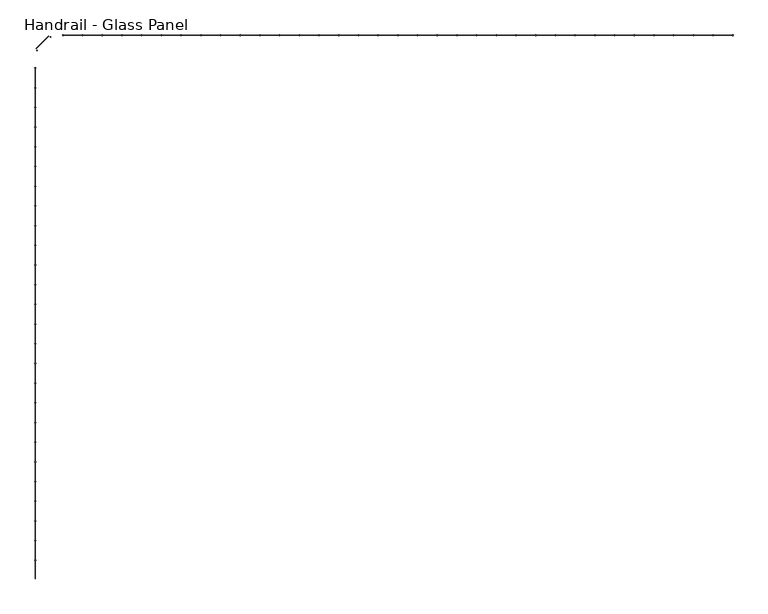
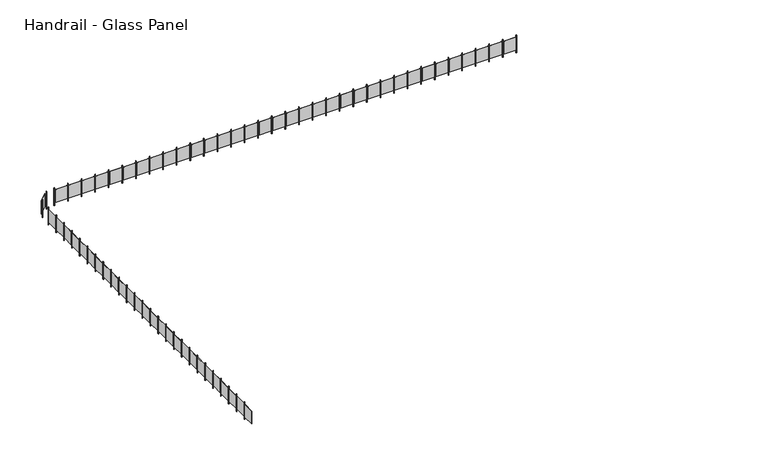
"""IFC4 building model written with IfcOpenShell, lengths in millimetres: railing geometry, Handrail - Glass Panel."""

from ifc_helpers import new_model, si_unit, frame, origin, place, context, project, spatial, polyline, outline, extrude, source, transform, mapped, element, save


def handrail_glass_panel_13f54aed(model_context):
    return source(origin(), model_context, "Body", "SweptSolid", [
        extrude(outline(polyline([(-19656.6365899, -6453.2148653), (-19656.6365899, -7012.0148653), (-19662.9865899, -7012.0148653), (-19662.9865899, -6453.2148653), (-19656.6365899, -6453.2148653)])), frame((0.0, 0.0, 8227.0), z_axis=(0.0, 0.0, 1.0), x_axis=(1.0, 0.0, 0.0)), (0.0, 0.0, 1.0), 635.0),
        extrude(outline(polyline([(-19672.5115899, -6405.5898653), (-19653.4615899, -6405.5898653), (-19653.4615899, -6424.6398653), (-19672.5115899, -6424.6398653), (-19672.5115899, -6405.5898653)])), frame((0.0, 0.0, 8100.0), z_axis=(0.0, 0.0, 1.0), x_axis=(1.0, 0.0, 0.0)), (0.0, 0.0, 1.0), 863.6),
        extrude(outline(polyline([(-19656.6365899, -5818.2148653), (-19656.6365899, -6377.0148653), (-19662.9865899, -6377.0148653), (-19662.9865899, -5818.2148653), (-19656.6365899, -5818.2148653)])), frame((0.0, 0.0, 8227.0), z_axis=(0.0, 0.0, 1.0), x_axis=(1.0, 0.0, 0.0)), (0.0, 0.0, 1.0), 635.0),
        extrude(outline(polyline([(-19672.5115899, -5770.5898653), (-19653.4615899, -5770.5898653), (-19653.4615899, -5789.6398653), (-19672.5115899, -5789.6398653), (-19672.5115899, -5770.5898653)])), frame((0.0, 0.0, 8100.0), z_axis=(0.0, 0.0, 1.0), x_axis=(1.0, 0.0, 0.0)), (0.0, 0.0, 1.0), 863.6),
        extrude(outline(polyline([(-19656.6365899, -5183.2148653), (-19656.6365899, -5742.0148653), (-19662.9865899, -5742.0148653), (-19662.9865899, -5183.2148653), (-19656.6365899, -5183.2148653)])), frame((0.0, 0.0, 8227.0), z_axis=(0.0, 0.0, 1.0), x_axis=(1.0, 0.0, 0.0)), (0.0, 0.0, 1.0), 635.0),
        extrude(outline(polyline([(-19672.5115899, -5135.5898653), (-19653.4615899, -5135.5898653), (-19653.4615899, -5154.6398653), (-19672.5115899, -5154.6398653), (-19672.5115899, -5135.5898653)])), frame((0.0, 0.0, 8100.0), z_axis=(0.0, 0.0, 1.0), x_axis=(1.0, 0.0, 0.0)), (0.0, 0.0, 1.0), 863.6),
        extrude(outline(polyline([(-19656.6365899, -4548.2148653), (-19656.6365899, -5107.0148653), (-19662.9865899, -5107.0148653), (-19662.9865899, -4548.2148653), (-19656.6365899, -4548.2148653)])), frame((0.0, 0.0, 8227.0), z_axis=(0.0, 0.0, 1.0), x_axis=(1.0, 0.0, 0.0)), (0.0, 0.0, 1.0), 635.0),
        extrude(outline(polyline([(-19672.5115899, -4500.5898653), (-19653.4615899, -4500.5898653), (-19653.4615899, -4519.6398653), (-19672.5115899, -4519.6398653), (-19672.5115899, -4500.5898653)])), frame((0.0, 0.0, 8100.0), z_axis=(0.0, 0.0, 1.0), x_axis=(1.0, 0.0, 0.0)), (0.0, 0.0, 1.0), 863.6),
        extrude(outline(polyline([(-19656.6365899, -3913.2148653), (-19656.6365899, -4472.0148653), (-19662.9865899, -4472.0148653), (-19662.9865899, -3913.2148653), (-19656.6365899, -3913.2148653)])), frame((0.0, 0.0, 8227.0), z_axis=(0.0, 0.0, 1.0), x_axis=(1.0, 0.0, 0.0)), (0.0, 0.0, 1.0), 635.0),
        extrude(outline(polyline([(-19672.5115899, -3865.5898653), (-19653.4615899, -3865.5898653), (-19653.4615899, -3884.6398653), (-19672.5115899, -3884.6398653), (-19672.5115899, -3865.5898653)])), frame((0.0, 0.0, 8100.0), z_axis=(0.0, 0.0, 1.0), x_axis=(1.0, 0.0, 0.0)), (0.0, 0.0, 1.0), 863.6),
        extrude(outline(polyline([(-19656.6365899, -3278.2148653), (-19656.6365899, -3837.0148653), (-19662.9865899, -3837.0148653), (-19662.9865899, -3278.2148653), (-19656.6365899, -3278.2148653)])), frame((0.0, 0.0, 8227.0), z_axis=(0.0, 0.0, 1.0), x_axis=(1.0, 0.0, 0.0)), (0.0, 0.0, 1.0), 635.0),
        extrude(outline(polyline([(-19672.5115899, -3230.5898653), (-19653.4615899, -3230.5898653), (-19653.4615899, -3249.6398653), (-19672.5115899, -3249.6398653), (-19672.5115899, -3230.5898653)])), frame((0.0, 0.0, 8100.0), z_axis=(0.0, 0.0, 1.0), x_axis=(1.0, 0.0, 0.0)), (0.0, 0.0, 1.0), 863.6),
        extrude(outline(polyline([(-19656.6365899, -2643.2148653), (-19656.6365899, -3202.0148653), (-19662.9865899, -3202.0148653), (-19662.9865899, -2643.2148653), (-19656.6365899, -2643.2148653)])), frame((0.0, 0.0, 8227.0), z_axis=(0.0, 0.0, 1.0), x_axis=(1.0, 0.0, 0.0)), (0.0, 0.0, 1.0), 635.0),
        extrude(outline(polyline([(-19672.5115899, -2595.5898653), (-19653.4615899, -2595.5898653), (-19653.4615899, -2614.6398653), (-19672.5115899, -2614.6398653), (-19672.5115899, -2595.5898653)])), frame((0.0, 0.0, 8100.0), z_axis=(0.0, 0.0, 1.0), x_axis=(1.0, 0.0, 0.0)), (0.0, 0.0, 1.0), 863.6),
        extrude(outline(polyline([(-19656.6365899, -2008.2148653), (-19656.6365899, -2567.0148653), (-19662.9865899, -2567.0148653), (-19662.9865899, -2008.2148653), (-19656.6365899, -2008.2148653)])), frame((0.0, 0.0, 8227.0), z_axis=(0.0, 0.0, 1.0), x_axis=(1.0, 0.0, 0.0)), (0.0, 0.0, 1.0), 635.0),
        extrude(outline(polyline([(-19672.5115899, -1960.5898653), (-19653.4615899, -1960.5898653), (-19653.4615899, -1979.6398653), (-19672.5115899, -1979.6398653), (-19672.5115899, -1960.5898653)])), frame((0.0, 0.0, 8100.0), z_axis=(0.0, 0.0, 1.0), x_axis=(1.0, 0.0, 0.0)), (0.0, 0.0, 1.0), 863.6),
        extrude(outline(polyline([(-19656.6365899, -1373.2148653), (-19656.6365899, -1932.0148653), (-19662.9865899, -1932.0148653), (-19662.9865899, -1373.2148653), (-19656.6365899, -1373.2148653)])), frame((0.0, 0.0, 8227.0), z_axis=(0.0, 0.0, 1.0), x_axis=(1.0, 0.0, 0.0)), (0.0, 0.0, 1.0), 635.0),
        extrude(outline(polyline([(-19672.5115899, -1325.5898653), (-19653.4615899, -1325.5898653), (-19653.4615899, -1344.6398653), (-19672.5115899, -1344.6398653), (-19672.5115899, -1325.5898653)])), frame((0.0, 0.0, 8100.0), z_axis=(0.0, 0.0, 1.0), x_axis=(1.0, 0.0, 0.0)), (0.0, 0.0, 1.0), 863.6),
        extrude(outline(polyline([(-19656.6365899, -738.2148653), (-19656.6365899, -1297.0148653), (-19662.9865899, -1297.0148653), (-19662.9865899, -738.2148653), (-19656.6365899, -738.2148653)])), frame((0.0, 0.0, 8227.0), z_axis=(0.0, 0.0, 1.0), x_axis=(1.0, 0.0, 0.0)), (0.0, 0.0, 1.0), 635.0),
        extrude(outline(polyline([(-19672.5115899, -690.5898653), (-19653.4615899, -690.5898653), (-19653.4615899, -709.6398653), (-19672.5115899, -709.6398653), (-19672.5115899, -690.5898653)])), frame((0.0, 0.0, 8100.0), z_axis=(0.0, 0.0, 1.0), x_axis=(1.0, 0.0, 0.0)), (0.0, 0.0, 1.0), 863.6),
        extrude(outline(polyline([(-19656.6365899, -103.2148653), (-19656.6365899, -662.0148653), (-19662.9865899, -662.0148653), (-19662.9865899, -103.2148653), (-19656.6365899, -103.2148653)])), frame((0.0, 0.0, 8227.0), z_axis=(0.0, 0.0, 1.0), x_axis=(1.0, 0.0, 0.0)), (0.0, 0.0, 1.0), 635.0),
        extrude(outline(polyline([(-19672.5115899, -55.5898653), (-19653.4615899, -55.5898653), (-19653.4615899, -74.6398653), (-19672.5115899, -74.6398653), (-19672.5115899, -55.5898653)])), frame((0.0, 0.0, 8100.0), z_axis=(0.0, 0.0, 1.0), x_axis=(1.0, 0.0, 0.0)), (0.0, 0.0, 1.0), 863.6),
        extrude(outline(polyline([(-19656.6365899, 531.7851347), (-19656.6365899, -27.0148653), (-19662.9865899, -27.0148653), (-19662.9865899, 531.7851347), (-19656.6365899, 531.7851347)])), frame((0.0, 0.0, 8227.0), z_axis=(0.0, 0.0, 1.0), x_axis=(1.0, 0.0, 0.0)), (0.0, 0.0, 1.0), 635.0),
        extrude(outline(polyline([(-19672.5115899, 579.4101347), (-19653.4615899, 579.4101347), (-19653.4615899, 560.3601347), (-19672.5115899, 560.3601347), (-19672.5115899, 579.4101347)])), frame((0.0, 0.0, 8100.0), z_axis=(0.0, 0.0, 1.0), x_axis=(1.0, 0.0, 0.0)), (0.0, 0.0, 1.0), 863.6),
        extrude(outline(polyline([(-19656.6365899, 1166.7851347), (-19656.6365899, 607.9851347), (-19662.9865899, 607.9851347), (-19662.9865899, 1166.7851347), (-19656.6365899, 1166.7851347)])), frame((0.0, 0.0, 8227.0), z_axis=(0.0, 0.0, 1.0), x_axis=(1.0, 0.0, 0.0)), (0.0, 0.0, 1.0), 635.0),
        extrude(outline(polyline([(-19672.5115899, 1214.4101347), (-19653.4615899, 1214.4101347), (-19653.4615899, 1195.3601347), (-19672.5115899, 1195.3601347), (-19672.5115899, 1214.4101347)])), frame((0.0, 0.0, 8100.0), z_axis=(0.0, 0.0, 1.0), x_axis=(1.0, 0.0, 0.0)), (0.0, 0.0, 1.0), 863.6),
        extrude(outline(polyline([(-19656.6365899, 1801.7851347), (-19656.6365899, 1242.9851347), (-19662.9865899, 1242.9851347), (-19662.9865899, 1801.7851347), (-19656.6365899, 1801.7851347)])), frame((0.0, 0.0, 8227.0), z_axis=(0.0, 0.0, 1.0), x_axis=(1.0, 0.0, 0.0)), (0.0, 0.0, 1.0), 635.0),
        extrude(outline(polyline([(-19672.5115899, 1849.4101347), (-19653.4615899, 1849.4101347), (-19653.4615899, 1830.3601347), (-19672.5115899, 1830.3601347), (-19672.5115899, 1849.4101347)])), frame((0.0, 0.0, 8100.0), z_axis=(0.0, 0.0, 1.0), x_axis=(1.0, 0.0, 0.0)), (0.0, 0.0, 1.0), 863.6),
        extrude(outline(polyline([(-19656.6365899, 2436.7851347), (-19656.6365899, 1877.9851347), (-19662.9865899, 1877.9851347), (-19662.9865899, 2436.7851347), (-19656.6365899, 2436.7851347)])), frame((0.0, 0.0, 8227.0), z_axis=(0.0, 0.0, 1.0), x_axis=(1.0, 0.0, 0.0)), (0.0, 0.0, 1.0), 635.0),
        extrude(outline(polyline([(-19672.5115899, 2484.4101347), (-19653.4615899, 2484.4101347), (-19653.4615899, 2465.3601347), (-19672.5115899, 2465.3601347), (-19672.5115899, 2484.4101347)])), frame((0.0, 0.0, 8100.0), z_axis=(0.0, 0.0, 1.0), x_axis=(1.0, 0.0, 0.0)), (0.0, 0.0, 1.0), 863.6),
        extrude(outline(polyline([(-19656.6365899, 3071.7851347), (-19656.6365899, 2512.9851347), (-19662.9865899, 2512.9851347), (-19662.9865899, 3071.7851347), (-19656.6365899, 3071.7851347)])), frame((0.0, 0.0, 8227.0), z_axis=(0.0, 0.0, 1.0), x_axis=(1.0, 0.0, 0.0)), (0.0, 0.0, 1.0), 635.0),
        extrude(outline(polyline([(-19672.5115899, 3119.4101347), (-19653.4615899, 3119.4101347), (-19653.4615899, 3100.3601347), (-19672.5115899, 3100.3601347), (-19672.5115899, 3119.4101347)])), frame((0.0, 0.0, 8100.0), z_axis=(0.0, 0.0, 1.0), x_axis=(1.0, 0.0, 0.0)), (0.0, 0.0, 1.0), 863.6),
        extrude(outline(polyline([(-19656.6365899, 3706.7851347), (-19656.6365899, 3147.9851347), (-19662.9865899, 3147.9851347), (-19662.9865899, 3706.7851347), (-19656.6365899, 3706.7851347)])), frame((0.0, 0.0, 8227.0), z_axis=(0.0, 0.0, 1.0), x_axis=(1.0, 0.0, 0.0)), (0.0, 0.0, 1.0), 635.0),
        extrude(outline(polyline([(-19672.5115899, 3754.4101347), (-19653.4615899, 3754.4101347), (-19653.4615899, 3735.3601347), (-19672.5115899, 3735.3601347), (-19672.5115899, 3754.4101347)])), frame((0.0, 0.0, 8100.0), z_axis=(0.0, 0.0, 1.0), x_axis=(1.0, 0.0, 0.0)), (0.0, 0.0, 1.0), 863.6),
        extrude(outline(polyline([(-19656.6365899, 4341.7851347), (-19656.6365899, 3782.9851347), (-19662.9865899, 3782.9851347), (-19662.9865899, 4341.7851347), (-19656.6365899, 4341.7851347)])), frame((0.0, 0.0, 8227.0), z_axis=(0.0, 0.0, 1.0), x_axis=(1.0, 0.0, 0.0)), (0.0, 0.0, 1.0), 635.0),
        extrude(outline(polyline([(-19672.5115899, 4389.4101347), (-19653.4615899, 4389.4101347), (-19653.4615899, 4370.3601347), (-19672.5115899, 4370.3601347), (-19672.5115899, 4389.4101347)])), frame((0.0, 0.0, 8100.0), z_axis=(0.0, 0.0, 1.0), x_axis=(1.0, 0.0, 0.0)), (0.0, 0.0, 1.0), 863.6),
        extrude(outline(polyline([(-19656.6365899, 4976.7851347), (-19656.6365899, 4417.9851347), (-19662.9865899, 4417.9851347), (-19662.9865899, 4976.7851347), (-19656.6365899, 4976.7851347)])), frame((0.0, 0.0, 8227.0), z_axis=(0.0, 0.0, 1.0), x_axis=(1.0, 0.0, 0.0)), (0.0, 0.0, 1.0), 635.0),
        extrude(outline(polyline([(-19672.5115899, 5024.4101347), (-19653.4615899, 5024.4101347), (-19653.4615899, 5005.3601347), (-19672.5115899, 5005.3601347), (-19672.5115899, 5024.4101347)])), frame((0.0, 0.0, 8100.0), z_axis=(0.0, 0.0, 1.0), x_axis=(1.0, 0.0, 0.0)), (0.0, 0.0, 1.0), 863.6),
        extrude(outline(polyline([(-19656.6365899, 5611.7851347), (-19656.6365899, 5052.9851347), (-19662.9865899, 5052.9851347), (-19662.9865899, 5611.7851347), (-19656.6365899, 5611.7851347)])), frame((0.0, 0.0, 8227.0), z_axis=(0.0, 0.0, 1.0), x_axis=(1.0, 0.0, 0.0)), (0.0, 0.0, 1.0), 635.0),
        extrude(outline(polyline([(-19672.5115899, 5659.4101347), (-19653.4615899, 5659.4101347), (-19653.4615899, 5640.3601347), (-19672.5115899, 5640.3601347), (-19672.5115899, 5659.4101347)])), frame((0.0, 0.0, 8100.0), z_axis=(0.0, 0.0, 1.0), x_axis=(1.0, 0.0, 0.0)), (0.0, 0.0, 1.0), 863.6),
        extrude(outline(polyline([(-19656.6365899, 6246.7851347), (-19656.6365899, 5687.9851347), (-19662.9865899, 5687.9851347), (-19662.9865899, 6246.7851347), (-19656.6365899, 6246.7851347)])), frame((0.0, 0.0, 8227.0), z_axis=(0.0, 0.0, 1.0), x_axis=(1.0, 0.0, 0.0)), (0.0, 0.0, 1.0), 635.0),
        extrude(outline(polyline([(-19672.5115899, 6294.4101347), (-19653.4615899, 6294.4101347), (-19653.4615899, 6275.3601347), (-19672.5115899, 6275.3601347), (-19672.5115899, 6294.4101347)])), frame((0.0, 0.0, 8100.0), z_axis=(0.0, 0.0, 1.0), x_axis=(1.0, 0.0, 0.0)), (0.0, 0.0, 1.0), 863.6),
        extrude(outline(polyline([(-19656.6365899, 6881.7851347), (-19656.6365899, 6322.9851347), (-19662.9865899, 6322.9851347), (-19662.9865899, 6881.7851347), (-19656.6365899, 6881.7851347)])), frame((0.0, 0.0, 8227.0), z_axis=(0.0, 0.0, 1.0), x_axis=(1.0, 0.0, 0.0)), (0.0, 0.0, 1.0), 635.0),
        extrude(outline(polyline([(-19672.5115899, 6929.4101347), (-19653.4615899, 6929.4101347), (-19653.4615899, 6910.3601347), (-19672.5115899, 6910.3601347), (-19672.5115899, 6929.4101347)])), frame((0.0, 0.0, 8100.0), z_axis=(0.0, 0.0, 1.0), x_axis=(1.0, 0.0, 0.0)), (0.0, 0.0, 1.0), 863.6),
        extrude(outline(polyline([(-19656.6365899, 7516.7851347), (-19656.6365899, 6957.9851347), (-19662.9865899, 6957.9851347), (-19662.9865899, 7516.7851347), (-19656.6365899, 7516.7851347)])), frame((0.0, 0.0, 8227.0), z_axis=(0.0, 0.0, 1.0), x_axis=(1.0, 0.0, 0.0)), (0.0, 0.0, 1.0), 635.0),
        extrude(outline(polyline([(-19672.5115899, 7564.4101347), (-19653.4615899, 7564.4101347), (-19653.4615899, 7545.3601347), (-19672.5115899, 7545.3601347), (-19672.5115899, 7564.4101347)])), frame((0.0, 0.0, 8100.0), z_axis=(0.0, 0.0, 1.0), x_axis=(1.0, 0.0, 0.0)), (0.0, 0.0, 1.0), 863.6),
        extrude(outline(polyline([(-19656.6365899, 8151.7851347), (-19656.6365899, 7592.9851347), (-19662.9865899, 7592.9851347), (-19662.9865899, 8151.7851347), (-19656.6365899, 8151.7851347)])), frame((0.0, 0.0, 8227.0), z_axis=(0.0, 0.0, 1.0), x_axis=(1.0, 0.0, 0.0)), (0.0, 0.0, 1.0), 635.0),
        extrude(outline(polyline([(-19672.5115899, 8199.4101347), (-19653.4615899, 8199.4101347), (-19653.4615899, 8180.3601347), (-19672.5115899, 8180.3601347), (-19672.5115899, 8199.4101347)])), frame((0.0, 0.0, 8100.0), z_axis=(0.0, 0.0, 1.0), x_axis=(1.0, 0.0, 0.0)), (0.0, 0.0, 1.0), 863.6),
        extrude(outline(polyline([(-19656.6365899, 8786.7851347), (-19656.6365899, 8227.9851347), (-19662.9865899, 8227.9851347), (-19662.9865899, 8786.7851347), (-19656.6365899, 8786.7851347)])), frame((0.0, 0.0, 8227.0), z_axis=(0.0, 0.0, 1.0), x_axis=(1.0, 0.0, 0.0)), (0.0, 0.0, 1.0), 635.0),
        extrude(outline(polyline([(-19672.5115899, 8834.4101347), (-19653.4615899, 8834.4101347), (-19653.4615899, 8815.3601347), (-19672.5115899, 8815.3601347), (-19672.5115899, 8834.4101347)])), frame((0.0, 0.0, 8100.0), z_axis=(0.0, 0.0, 1.0), x_axis=(1.0, 0.0, 0.0)), (0.0, 0.0, 1.0), 863.6),
        extrude(outline(polyline([(-19656.6365899, 9421.7851347), (-19656.6365899, 8862.9851347), (-19662.9865899, 8862.9851347), (-19662.9865899, 9421.7851347), (-19656.6365899, 9421.7851347)])), frame((0.0, 0.0, 8227.0), z_axis=(0.0, 0.0, 1.0), x_axis=(1.0, 0.0, 0.0)), (0.0, 0.0, 1.0), 635.0),
        extrude(outline(polyline([(-19672.5115899, 9469.4101347), (-19653.4615899, 9469.4101347), (-19653.4615899, 9450.3601347), (-19672.5115899, 9450.3601347), (-19672.5115899, 9469.4101347)])), frame((0.0, 0.0, 8100.0), z_axis=(0.0, 0.0, 1.0), x_axis=(1.0, 0.0, 0.0)), (0.0, 0.0, 1.0), 863.6),
        extrude(outline(polyline([(-19614.1999922, 10044.4220765), (-19596.4803333, 10037.4280656), (-19603.4743442, 10019.7084067), (-19621.1940031, 10026.7024176), (-19614.1999922, 10044.4220765)])), frame((0.0, 0.0, 8100.0), z_axis=(0.0, 0.0, 1.0), x_axis=(1.0, 0.0, 0.0)), (0.0, 0.0, 1.0), 863.6),
        extrude(outline(polyline([(-19233.8214253, 10488.7512395), (-19628.9526946, 10093.6199701), (-19633.4428227, 10098.1100982), (-19238.3115534, 10493.2413675), (-19233.8214253, 10488.7512395)])), frame((0.0, 0.0, 8227.0), z_axis=(0.0, 0.0, 1.0), x_axis=(1.0, 0.0, 0.0)), (0.0, 0.0, 1.0), 635.0),
        extrude(outline(polyline([(-19166.9038727, 10480.992548), (-19159.9098618, 10463.2728891), (-19177.6295208, 10456.2788782), (-19184.6235316, 10473.9985371), (-19166.9038727, 10480.992548)])), frame((0.0, 0.0, 8100.0), z_axis=(0.0, 0.0, 1.0), x_axis=(1.0, 0.0, 0.0)), (0.0, 0.0, 1.0), 863.6),
        extrude(outline(polyline([(-18761.4469999, 10532.3101347), (-18761.4469999, 10513.2601347), (-18780.4969999, 10513.2601347), (-18780.4969999, 10532.3101347), (-18761.4469999, 10532.3101347)])), frame((0.0, 0.0, 8100.0), z_axis=(0.0, 0.0, 1.0), x_axis=(1.0, 0.0, 0.0)), (0.0, 0.0, 1.0), 863.6),
        extrude(outline(polyline([(-18174.0719999, 10516.4351347), (-18732.8719999, 10516.4351347), (-18732.8719999, 10522.7851347), (-18174.0719999, 10522.7851347), (-18174.0719999, 10516.4351347)])), frame((0.0, 0.0, 8227.0), z_axis=(0.0, 0.0, 1.0), x_axis=(1.0, 0.0, 0.0)), (0.0, 0.0, 1.0), 635.0),
        extrude(outline(polyline([(-18126.4469999, 10532.3101347), (-18126.4469999, 10513.2601347), (-18145.4969999, 10513.2601347), (-18145.4969999, 10532.3101347), (-18126.4469999, 10532.3101347)])), frame((0.0, 0.0, 8100.0), z_axis=(0.0, 0.0, 1.0), x_axis=(1.0, 0.0, 0.0)), (0.0, 0.0, 1.0), 863.6),
        extrude(outline(polyline([(-17539.0719999, 10516.4351347), (-18097.8719999, 10516.4351347), (-18097.8719999, 10522.7851347), (-17539.0719999, 10522.7851347), (-17539.0719999, 10516.4351347)])), frame((0.0, 0.0, 8227.0), z_axis=(0.0, 0.0, 1.0), x_axis=(1.0, 0.0, 0.0)), (0.0, 0.0, 1.0), 635.0),
        extrude(outline(polyline([(-17491.4469999, 10532.3101347), (-17491.4469999, 10513.2601347), (-17510.4969999, 10513.2601347), (-17510.4969999, 10532.3101347), (-17491.4469999, 10532.3101347)])), frame((0.0, 0.0, 8100.0), z_axis=(0.0, 0.0, 1.0), x_axis=(1.0, 0.0, 0.0)), (0.0, 0.0, 1.0), 863.6),
        extrude(outline(polyline([(-16904.0719999, 10516.4351347), (-17462.8719999, 10516.4351347), (-17462.8719999, 10522.7851347), (-16904.0719999, 10522.7851347), (-16904.0719999, 10516.4351347)])), frame((0.0, 0.0, 8227.0), z_axis=(0.0, 0.0, 1.0), x_axis=(1.0, 0.0, 0.0)), (0.0, 0.0, 1.0), 635.0),
        extrude(outline(polyline([(-16856.4469999, 10532.3101347), (-16856.4469999, 10513.2601347), (-16875.4969999, 10513.2601347), (-16875.4969999, 10532.3101347), (-16856.4469999, 10532.3101347)])), frame((0.0, 0.0, 8100.0), z_axis=(0.0, 0.0, 1.0), x_axis=(1.0, 0.0, 0.0)), (0.0, 0.0, 1.0), 863.6),
        extrude(outline(polyline([(-16269.0719999, 10516.4351347), (-16827.8719999, 10516.4351347), (-16827.8719999, 10522.7851347), (-16269.0719999, 10522.7851347), (-16269.0719999, 10516.4351347)])), frame((0.0, 0.0, 8227.0), z_axis=(0.0, 0.0, 1.0), x_axis=(1.0, 0.0, 0.0)), (0.0, 0.0, 1.0), 635.0),
        extrude(outline(polyline([(-16221.4469999, 10532.3101347), (-16221.4469999, 10513.2601347), (-16240.4969999, 10513.2601347), (-16240.4969999, 10532.3101347), (-16221.4469999, 10532.3101347)])), frame((0.0, 0.0, 8100.0), z_axis=(0.0, 0.0, 1.0), x_axis=(1.0, 0.0, 0.0)), (0.0, 0.0, 1.0), 863.6),
        extrude(outline(polyline([(-15634.0719999, 10516.4351347), (-16192.8719999, 10516.4351347), (-16192.8719999, 10522.7851347), (-15634.0719999, 10522.7851347), (-15634.0719999, 10516.4351347)])), frame((0.0, 0.0, 8227.0), z_axis=(0.0, 0.0, 1.0), x_axis=(1.0, 0.0, 0.0)), (0.0, 0.0, 1.0), 635.0),
        extrude(outline(polyline([(-15586.4469999, 10532.3101347), (-15586.4469999, 10513.2601347), (-15605.4969999, 10513.2601347), (-15605.4969999, 10532.3101347), (-15586.4469999, 10532.3101347)])), frame((0.0, 0.0, 8100.0), z_axis=(0.0, 0.0, 1.0), x_axis=(1.0, 0.0, 0.0)), (0.0, 0.0, 1.0), 863.6),
        extrude(outline(polyline([(-14999.0719999, 10516.4351347), (-15557.8719999, 10516.4351347), (-15557.8719999, 10522.7851347), (-14999.0719999, 10522.7851347), (-14999.0719999, 10516.4351347)])), frame((0.0, 0.0, 8227.0), z_axis=(0.0, 0.0, 1.0), x_axis=(1.0, 0.0, 0.0)), (0.0, 0.0, 1.0), 635.0),
        extrude(outline(polyline([(-14951.4469999, 10532.3101347), (-14951.4469999, 10513.2601347), (-14970.4969999, 10513.2601347), (-14970.4969999, 10532.3101347), (-14951.4469999, 10532.3101347)])), frame((0.0, 0.0, 8100.0), z_axis=(0.0, 0.0, 1.0), x_axis=(1.0, 0.0, 0.0)), (0.0, 0.0, 1.0), 863.6),
        extrude(outline(polyline([(-14364.0719999, 10516.4351347), (-14922.8719999, 10516.4351347), (-14922.8719999, 10522.7851347), (-14364.0719999, 10522.7851347), (-14364.0719999, 10516.4351347)])), frame((0.0, 0.0, 8227.0), z_axis=(0.0, 0.0, 1.0), x_axis=(1.0, 0.0, 0.0)), (0.0, 0.0, 1.0), 635.0),
        extrude(outline(polyline([(-14316.4469999, 10532.3101347), (-14316.4469999, 10513.2601347), (-14335.4969999, 10513.2601347), (-14335.4969999, 10532.3101347), (-14316.4469999, 10532.3101347)])), frame((0.0, 0.0, 8100.0), z_axis=(0.0, 0.0, 1.0), x_axis=(1.0, 0.0, 0.0)), (0.0, 0.0, 1.0), 863.6),
        extrude(outline(polyline([(-13729.0719999, 10516.4351347), (-14287.8719999, 10516.4351347), (-14287.8719999, 10522.7851347), (-13729.0719999, 10522.7851347), (-13729.0719999, 10516.4351347)])), frame((0.0, 0.0, 8227.0), z_axis=(0.0, 0.0, 1.0), x_axis=(1.0, 0.0, 0.0)), (0.0, 0.0, 1.0), 635.0),
        extrude(outline(polyline([(-13681.4469999, 10532.3101347), (-13681.4469999, 10513.2601347), (-13700.4969999, 10513.2601347), (-13700.4969999, 10532.3101347), (-13681.4469999, 10532.3101347)])), frame((0.0, 0.0, 8100.0), z_axis=(0.0, 0.0, 1.0), x_axis=(1.0, 0.0, 0.0)), (0.0, 0.0, 1.0), 863.6),
        extrude(outline(polyline([(-13094.0719999, 10516.4351347), (-13652.8719999, 10516.4351347), (-13652.8719999, 10522.7851347), (-13094.0719999, 10522.7851347), (-13094.0719999, 10516.4351347)])), frame((0.0, 0.0, 8227.0), z_axis=(0.0, 0.0, 1.0), x_axis=(1.0, 0.0, 0.0)), (0.0, 0.0, 1.0), 635.0),
        extrude(outline(polyline([(-13046.4469999, 10532.3101347), (-13046.4469999, 10513.2601347), (-13065.4969999, 10513.2601347), (-13065.4969999, 10532.3101347), (-13046.4469999, 10532.3101347)])), frame((0.0, 0.0, 8100.0), z_axis=(0.0, 0.0, 1.0), x_axis=(1.0, 0.0, 0.0)), (0.0, 0.0, 1.0), 863.6),
        extrude(outline(polyline([(-12459.0719999, 10516.4351347), (-13017.8719999, 10516.4351347), (-13017.8719999, 10522.7851347), (-12459.0719999, 10522.7851347), (-12459.0719999, 10516.4351347)])), frame((0.0, 0.0, 8227.0), z_axis=(0.0, 0.0, 1.0), x_axis=(1.0, 0.0, 0.0)), (0.0, 0.0, 1.0), 635.0),
        extrude(outline(polyline([(-12411.4469999, 10532.3101347), (-12411.4469999, 10513.2601347), (-12430.4969999, 10513.2601347), (-12430.4969999, 10532.3101347), (-12411.4469999, 10532.3101347)])), frame((0.0, 0.0, 8100.0), z_axis=(0.0, 0.0, 1.0), x_axis=(1.0, 0.0, 0.0)), (0.0, 0.0, 1.0), 863.6),
        extrude(outline(polyline([(-11824.0719999, 10516.4351347), (-12382.8719999, 10516.4351347), (-12382.8719999, 10522.7851347), (-11824.0719999, 10522.7851347), (-11824.0719999, 10516.4351347)])), frame((0.0, 0.0, 8227.0), z_axis=(0.0, 0.0, 1.0), x_axis=(1.0, 0.0, 0.0)), (0.0, 0.0, 1.0), 635.0),
        extrude(outline(polyline([(-11776.4469999, 10532.3101347), (-11776.4469999, 10513.2601347), (-11795.4969999, 10513.2601347), (-11795.4969999, 10532.3101347), (-11776.4469999, 10532.3101347)])), frame((0.0, 0.0, 8100.0), z_axis=(0.0, 0.0, 1.0), x_axis=(1.0, 0.0, 0.0)), (0.0, 0.0, 1.0), 863.6),
        extrude(outline(polyline([(-11189.0719999, 10516.4351347), (-11747.8719999, 10516.4351347), (-11747.8719999, 10522.7851347), (-11189.0719999, 10522.7851347), (-11189.0719999, 10516.4351347)])), frame((0.0, 0.0, 8227.0), z_axis=(0.0, 0.0, 1.0), x_axis=(1.0, 0.0, 0.0)), (0.0, 0.0, 1.0), 635.0),
        extrude(outline(polyline([(-11141.4469999, 10532.3101347), (-11141.4469999, 10513.2601347), (-11160.4969999, 10513.2601347), (-11160.4969999, 10532.3101347), (-11141.4469999, 10532.3101347)])), frame((0.0, 0.0, 8100.0), z_axis=(0.0, 0.0, 1.0), x_axis=(1.0, 0.0, 0.0)), (0.0, 0.0, 1.0), 863.6),
        extrude(outline(polyline([(-10554.0719999, 10516.4351347), (-11112.8719999, 10516.4351347), (-11112.8719999, 10522.7851347), (-10554.0719999, 10522.7851347), (-10554.0719999, 10516.4351347)])), frame((0.0, 0.0, 8227.0), z_axis=(0.0, 0.0, 1.0), x_axis=(1.0, 0.0, 0.0)), (0.0, 0.0, 1.0), 635.0),
        extrude(outline(polyline([(-10506.4469999, 10532.3101347), (-10506.4469999, 10513.2601347), (-10525.4969999, 10513.2601347), (-10525.4969999, 10532.3101347), (-10506.4469999, 10532.3101347)])), frame((0.0, 0.0, 8100.0), z_axis=(0.0, 0.0, 1.0), x_axis=(1.0, 0.0, 0.0)), (0.0, 0.0, 1.0), 863.6),
        extrude(outline(polyline([(-9919.0719999, 10516.4351347), (-10477.8719999, 10516.4351347), (-10477.8719999, 10522.7851347), (-9919.0719999, 10522.7851347), (-9919.0719999, 10516.4351347)])), frame((0.0, 0.0, 8227.0), z_axis=(0.0, 0.0, 1.0), x_axis=(1.0, 0.0, 0.0)), (0.0, 0.0, 1.0), 635.0),
        extrude(outline(polyline([(-9871.4469999, 10532.3101347), (-9871.4469999, 10513.2601347), (-9890.4969999, 10513.2601347), (-9890.4969999, 10532.3101347), (-9871.4469999, 10532.3101347)])), frame((0.0, 0.0, 8100.0), z_axis=(0.0, 0.0, 1.0), x_axis=(1.0, 0.0, 0.0)), (0.0, 0.0, 1.0), 863.6),
        extrude(outline(polyline([(-9284.0719999, 10516.4351347), (-9842.8719999, 10516.4351347), (-9842.8719999, 10522.7851347), (-9284.0719999, 10522.7851347), (-9284.0719999, 10516.4351347)])), frame((0.0, 0.0, 8227.0), z_axis=(0.0, 0.0, 1.0), x_axis=(1.0, 0.0, 0.0)), (0.0, 0.0, 1.0), 635.0),
        extrude(outline(polyline([(-9236.4469999, 10532.3101347), (-9236.4469999, 10513.2601347), (-9255.4969999, 10513.2601347), (-9255.4969999, 10532.3101347), (-9236.4469999, 10532.3101347)])), frame((0.0, 0.0, 8100.0), z_axis=(0.0, 0.0, 1.0), x_axis=(1.0, 0.0, 0.0)), (0.0, 0.0, 1.0), 863.6),
        extrude(outline(polyline([(-8649.0719999, 10516.4351347), (-9207.8719999, 10516.4351347), (-9207.8719999, 10522.7851347), (-8649.0719999, 10522.7851347), (-8649.0719999, 10516.4351347)])), frame((0.0, 0.0, 8227.0), z_axis=(0.0, 0.0, 1.0), x_axis=(1.0, 0.0, 0.0)), (0.0, 0.0, 1.0), 635.0),
        extrude(outline(polyline([(-8601.4469999, 10532.3101347), (-8601.4469999, 10513.2601347), (-8620.4969999, 10513.2601347), (-8620.4969999, 10532.3101347), (-8601.4469999, 10532.3101347)])), frame((0.0, 0.0, 8100.0), z_axis=(0.0, 0.0, 1.0), x_axis=(1.0, 0.0, 0.0)), (0.0, 0.0, 1.0), 863.6),
        extrude(outline(polyline([(-8014.0719999, 10516.4351347), (-8572.8719999, 10516.4351347), (-8572.8719999, 10522.7851347), (-8014.0719999, 10522.7851347), (-8014.0719999, 10516.4351347)])), frame((0.0, 0.0, 8227.0), z_axis=(0.0, 0.0, 1.0), x_axis=(1.0, 0.0, 0.0)), (0.0, 0.0, 1.0), 635.0),
        extrude(outline(polyline([(-7966.4469999, 10532.3101347), (-7966.4469999, 10513.2601347), (-7985.4969999, 10513.2601347), (-7985.4969999, 10532.3101347), (-7966.4469999, 10532.3101347)])), frame((0.0, 0.0, 8100.0), z_axis=(0.0, 0.0, 1.0), x_axis=(1.0, 0.0, 0.0)), (0.0, 0.0, 1.0), 863.6),
        extrude(outline(polyline([(-7379.0719999, 10516.4351347), (-7937.8719999, 10516.4351347), (-7937.8719999, 10522.7851347), (-7379.0719999, 10522.7851347), (-7379.0719999, 10516.4351347)])), frame((0.0, 0.0, 8227.0), z_axis=(0.0, 0.0, 1.0), x_axis=(1.0, 0.0, 0.0)), (0.0, 0.0, 1.0), 635.0),
        extrude(outline(polyline([(-7331.4469999, 10532.3101347), (-7331.4469999, 10513.2601347), (-7350.4969999, 10513.2601347), (-7350.4969999, 10532.3101347), (-7331.4469999, 10532.3101347)])), frame((0.0, 0.0, 8100.0), z_axis=(0.0, 0.0, 1.0), x_axis=(1.0, 0.0, 0.0)), (0.0, 0.0, 1.0), 863.6),
        extrude(outline(polyline([(-6744.0719999, 10516.4351347), (-7302.8719999, 10516.4351347), (-7302.8719999, 10522.7851347), (-6744.0719999, 10522.7851347), (-6744.0719999, 10516.4351347)])), frame((0.0, 0.0, 8227.0), z_axis=(0.0, 0.0, 1.0), x_axis=(1.0, 0.0, 0.0)), (0.0, 0.0, 1.0), 635.0),
        extrude(outline(polyline([(-6696.4469999, 10532.3101347), (-6696.4469999, 10513.2601347), (-6715.4969999, 10513.2601347), (-6715.4969999, 10532.3101347), (-6696.4469999, 10532.3101347)])), frame((0.0, 0.0, 8100.0), z_axis=(0.0, 0.0, 1.0), x_axis=(1.0, 0.0, 0.0)), (0.0, 0.0, 1.0), 863.6),
        extrude(outline(polyline([(-6109.0719999, 10516.4351347), (-6667.8719999, 10516.4351347), (-6667.8719999, 10522.7851347), (-6109.0719999, 10522.7851347), (-6109.0719999, 10516.4351347)])), frame((0.0, 0.0, 8227.0), z_axis=(0.0, 0.0, 1.0), x_axis=(1.0, 0.0, 0.0)), (0.0, 0.0, 1.0), 635.0),
        extrude(outline(polyline([(-6061.4469999, 10532.3101347), (-6061.4469999, 10513.2601347), (-6080.4969999, 10513.2601347), (-6080.4969999, 10532.3101347), (-6061.4469999, 10532.3101347)])), frame((0.0, 0.0, 8100.0), z_axis=(0.0, 0.0, 1.0), x_axis=(1.0, 0.0, 0.0)), (0.0, 0.0, 1.0), 863.6),
        extrude(outline(polyline([(-5474.0719999, 10516.4351347), (-6032.8719999, 10516.4351347), (-6032.8719999, 10522.7851347), (-5474.0719999, 10522.7851347), (-5474.0719999, 10516.4351347)])), frame((0.0, 0.0, 8227.0), z_axis=(0.0, 0.0, 1.0), x_axis=(1.0, 0.0, 0.0)), (0.0, 0.0, 1.0), 635.0),
        extrude(outline(polyline([(-5426.4469999, 10532.3101347), (-5426.4469999, 10513.2601347), (-5445.4969999, 10513.2601347), (-5445.4969999, 10532.3101347), (-5426.4469999, 10532.3101347)])), frame((0.0, 0.0, 8100.0), z_axis=(0.0, 0.0, 1.0), x_axis=(1.0, 0.0, 0.0)), (0.0, 0.0, 1.0), 863.6),
        extrude(outline(polyline([(-4839.0719999, 10516.4351347), (-5397.8719999, 10516.4351347), (-5397.8719999, 10522.7851347), (-4839.0719999, 10522.7851347), (-4839.0719999, 10516.4351347)])), frame((0.0, 0.0, 8227.0), z_axis=(0.0, 0.0, 1.0), x_axis=(1.0, 0.0, 0.0)), (0.0, 0.0, 1.0), 635.0),
        extrude(outline(polyline([(-4791.4469999, 10532.3101347), (-4791.4469999, 10513.2601347), (-4810.4969999, 10513.2601347), (-4810.4969999, 10532.3101347), (-4791.4469999, 10532.3101347)])), frame((0.0, 0.0, 8100.0), z_axis=(0.0, 0.0, 1.0), x_axis=(1.0, 0.0, 0.0)), (0.0, 0.0, 1.0), 863.6),
        extrude(outline(polyline([(-4204.0719999, 10516.4351347), (-4762.8719999, 10516.4351347), (-4762.8719999, 10522.7851347), (-4204.0719999, 10522.7851347), (-4204.0719999, 10516.4351347)])), frame((0.0, 0.0, 8227.0), z_axis=(0.0, 0.0, 1.0), x_axis=(1.0, 0.0, 0.0)), (0.0, 0.0, 1.0), 635.0),
        extrude(outline(polyline([(-4156.4469999, 10532.3101347), (-4156.4469999, 10513.2601347), (-4175.4969999, 10513.2601347), (-4175.4969999, 10532.3101347), (-4156.4469999, 10532.3101347)])), frame((0.0, 0.0, 8100.0), z_axis=(0.0, 0.0, 1.0), x_axis=(1.0, 0.0, 0.0)), (0.0, 0.0, 1.0), 863.6),
        extrude(outline(polyline([(-3569.0719999, 10516.4351347), (-4127.8719999, 10516.4351347), (-4127.8719999, 10522.7851347), (-3569.0719999, 10522.7851347), (-3569.0719999, 10516.4351347)])), frame((0.0, 0.0, 8227.0), z_axis=(0.0, 0.0, 1.0), x_axis=(1.0, 0.0, 0.0)), (0.0, 0.0, 1.0), 635.0),
        extrude(outline(polyline([(-3521.4469999, 10532.3101347), (-3521.4469999, 10513.2601347), (-3540.4969999, 10513.2601347), (-3540.4969999, 10532.3101347), (-3521.4469999, 10532.3101347)])), frame((0.0, 0.0, 8100.0), z_axis=(0.0, 0.0, 1.0), x_axis=(1.0, 0.0, 0.0)), (0.0, 0.0, 1.0), 863.6),
        extrude(outline(polyline([(-2934.0719999, 10516.4351347), (-3492.8719999, 10516.4351347), (-3492.8719999, 10522.7851347), (-2934.0719999, 10522.7851347), (-2934.0719999, 10516.4351347)])), frame((0.0, 0.0, 8227.0), z_axis=(0.0, 0.0, 1.0), x_axis=(1.0, 0.0, 0.0)), (0.0, 0.0, 1.0), 635.0),
        extrude(outline(polyline([(-2886.4469999, 10532.3101347), (-2886.4469999, 10513.2601347), (-2905.4969999, 10513.2601347), (-2905.4969999, 10532.3101347), (-2886.4469999, 10532.3101347)])), frame((0.0, 0.0, 8100.0), z_axis=(0.0, 0.0, 1.0), x_axis=(1.0, 0.0, 0.0)), (0.0, 0.0, 1.0), 863.6),
        extrude(outline(polyline([(-2299.0719999, 10516.4351347), (-2857.8719999, 10516.4351347), (-2857.8719999, 10522.7851347), (-2299.0719999, 10522.7851347), (-2299.0719999, 10516.4351347)])), frame((0.0, 0.0, 8227.0), z_axis=(0.0, 0.0, 1.0), x_axis=(1.0, 0.0, 0.0)), (0.0, 0.0, 1.0), 635.0),
        extrude(outline(polyline([(-2251.4469999, 10532.3101347), (-2251.4469999, 10513.2601347), (-2270.4969999, 10513.2601347), (-2270.4969999, 10532.3101347), (-2251.4469999, 10532.3101347)])), frame((0.0, 0.0, 8100.0), z_axis=(0.0, 0.0, 1.0), x_axis=(1.0, 0.0, 0.0)), (0.0, 0.0, 1.0), 863.6),
        extrude(outline(polyline([(-1664.0719999, 10516.4351347), (-2222.8719999, 10516.4351347), (-2222.8719999, 10522.7851347), (-1664.0719999, 10522.7851347), (-1664.0719999, 10516.4351347)])), frame((0.0, 0.0, 8227.0), z_axis=(0.0, 0.0, 1.0), x_axis=(1.0, 0.0, 0.0)), (0.0, 0.0, 1.0), 635.0),
        extrude(outline(polyline([(-1616.4469999, 10532.3101347), (-1616.4469999, 10513.2601347), (-1635.4969999, 10513.2601347), (-1635.4969999, 10532.3101347), (-1616.4469999, 10532.3101347)])), frame((0.0, 0.0, 8100.0), z_axis=(0.0, 0.0, 1.0), x_axis=(1.0, 0.0, 0.0)), (0.0, 0.0, 1.0), 863.6),
        extrude(outline(polyline([(-1029.0719999, 10516.4351347), (-1587.8719999, 10516.4351347), (-1587.8719999, 10522.7851347), (-1029.0719999, 10522.7851347), (-1029.0719999, 10516.4351347)])), frame((0.0, 0.0, 8227.0), z_axis=(0.0, 0.0, 1.0), x_axis=(1.0, 0.0, 0.0)), (0.0, 0.0, 1.0), 635.0),
        extrude(outline(polyline([(-981.4469999, 10532.3101347), (-981.4469999, 10513.2601347), (-1000.4969999, 10513.2601347), (-1000.4969999, 10532.3101347), (-981.4469999, 10532.3101347)])), frame((0.0, 0.0, 8100.0), z_axis=(0.0, 0.0, 1.0), x_axis=(1.0, 0.0, 0.0)), (0.0, 0.0, 1.0), 863.6),
        extrude(outline(polyline([(-394.0719999, 10516.4351347), (-952.8719999, 10516.4351347), (-952.8719999, 10522.7851347), (-394.0719999, 10522.7851347), (-394.0719999, 10516.4351347)])), frame((0.0, 0.0, 8227.0), z_axis=(0.0, 0.0, 1.0), x_axis=(1.0, 0.0, 0.0)), (0.0, 0.0, 1.0), 635.0),
        extrude(outline(polyline([(-346.4469999, 10532.3101347), (-346.4469999, 10513.2601347), (-365.4969999, 10513.2601347), (-365.4969999, 10532.3101347), (-346.4469999, 10532.3101347)])), frame((0.0, 0.0, 8100.0), z_axis=(0.0, 0.0, 1.0), x_axis=(1.0, 0.0, 0.0)), (0.0, 0.0, 1.0), 863.6),
        extrude(outline(polyline([(240.9280001, 10516.4351347), (-317.8719999, 10516.4351347), (-317.8719999, 10522.7851347), (240.9280001, 10522.7851347), (240.9280001, 10516.4351347)])), frame((0.0, 0.0, 8227.0), z_axis=(0.0, 0.0, 1.0), x_axis=(1.0, 0.0, 0.0)), (0.0, 0.0, 1.0), 635.0),
        extrude(outline(polyline([(288.5530001, 10532.3101347), (288.5530001, 10513.2601347), (269.5030001, 10513.2601347), (269.5030001, 10532.3101347), (288.5530001, 10532.3101347)])), frame((0.0, 0.0, 8100.0), z_axis=(0.0, 0.0, 1.0), x_axis=(1.0, 0.0, 0.0)), (0.0, 0.0, 1.0), 863.6),
        extrude(outline(polyline([(875.9280001, 10516.4351347), (317.1280001, 10516.4351347), (317.1280001, 10522.7851347), (875.9280001, 10522.7851347), (875.9280001, 10516.4351347)])), frame((0.0, 0.0, 8227.0), z_axis=(0.0, 0.0, 1.0), x_axis=(1.0, 0.0, 0.0)), (0.0, 0.0, 1.0), 635.0),
        extrude(outline(polyline([(923.5530001, 10532.3101347), (923.5530001, 10513.2601347), (904.5030001, 10513.2601347), (904.5030001, 10532.3101347), (923.5530001, 10532.3101347)])), frame((0.0, 0.0, 8100.0), z_axis=(0.0, 0.0, 1.0), x_axis=(1.0, 0.0, 0.0)), (0.0, 0.0, 1.0), 863.6),
        extrude(outline(polyline([(1510.9280001, 10516.4351347), (952.1280001, 10516.4351347), (952.1280001, 10522.7851347), (1510.9280001, 10522.7851347), (1510.9280001, 10516.4351347)])), frame((0.0, 0.0, 8227.0), z_axis=(0.0, 0.0, 1.0), x_axis=(1.0, 0.0, 0.0)), (0.0, 0.0, 1.0), 635.0),
        extrude(outline(polyline([(1558.5530001, 10532.3101347), (1558.5530001, 10513.2601347), (1539.5030001, 10513.2601347), (1539.5030001, 10532.3101347), (1558.5530001, 10532.3101347)])), frame((0.0, 0.0, 8100.0), z_axis=(0.0, 0.0, 1.0), x_axis=(1.0, 0.0, 0.0)), (0.0, 0.0, 1.0), 863.6),
        extrude(outline(polyline([(2145.9280001, 10516.4351347), (1587.1280001, 10516.4351347), (1587.1280001, 10522.7851347), (2145.9280001, 10522.7851347), (2145.9280001, 10516.4351347)])), frame((0.0, 0.0, 8227.0), z_axis=(0.0, 0.0, 1.0), x_axis=(1.0, 0.0, 0.0)), (0.0, 0.0, 1.0), 635.0),
        extrude(outline(polyline([(2193.5530001, 10532.3101347), (2193.5530001, 10513.2601347), (2174.5030001, 10513.2601347), (2174.5030001, 10532.3101347), (2193.5530001, 10532.3101347)])), frame((0.0, 0.0, 8100.0), z_axis=(0.0, 0.0, 1.0), x_axis=(1.0, 0.0, 0.0)), (0.0, 0.0, 1.0), 863.6),
        extrude(outline(polyline([(2780.9280001, 10516.4351347), (2222.1280001, 10516.4351347), (2222.1280001, 10522.7851347), (2780.9280001, 10522.7851347), (2780.9280001, 10516.4351347)])), frame((0.0, 0.0, 8227.0), z_axis=(0.0, 0.0, 1.0), x_axis=(1.0, 0.0, 0.0)), (0.0, 0.0, 1.0), 635.0),
        extrude(outline(polyline([(2828.5530001, 10532.3101347), (2828.5530001, 10513.2601347), (2809.5030001, 10513.2601347), (2809.5030001, 10532.3101347), (2828.5530001, 10532.3101347)])), frame((0.0, 0.0, 8100.0), z_axis=(0.0, 0.0, 1.0), x_axis=(1.0, 0.0, 0.0)), (0.0, 0.0, 1.0), 863.6),
    ])


if __name__ == "__main__":
    model = new_model("IFC4")
    model_context = context("Model", 3, world=origin())
    ifc_project = project(units=[si_unit("LENGTHUNIT", "METRE", prefix="MILLI")], contexts=[model_context])
    site = spatial("IfcSite", under=ifc_project)
    building = spatial("IfcBuilding", under=site)
    placement = place(None, origin())
    handrail_glass_panel_shape = handrail_glass_panel_13f54aed(model_context)
    element("IfcRailing", 1, ObjectType="Handrail - Glass Panel", at=placement, inside=building, context=model_context, shape_type="MappedRepresentation", body=[
        mapped(handrail_glass_panel_shape, transform((0.0, 0.0, 0.0), x_axis=(1.0, 0.0, 0.0), y_axis=(0.0, 1.0, 0.0), z_axis=(0.0, 0.0, 1.0))),
    ])
    save(model, "model.ifc")
